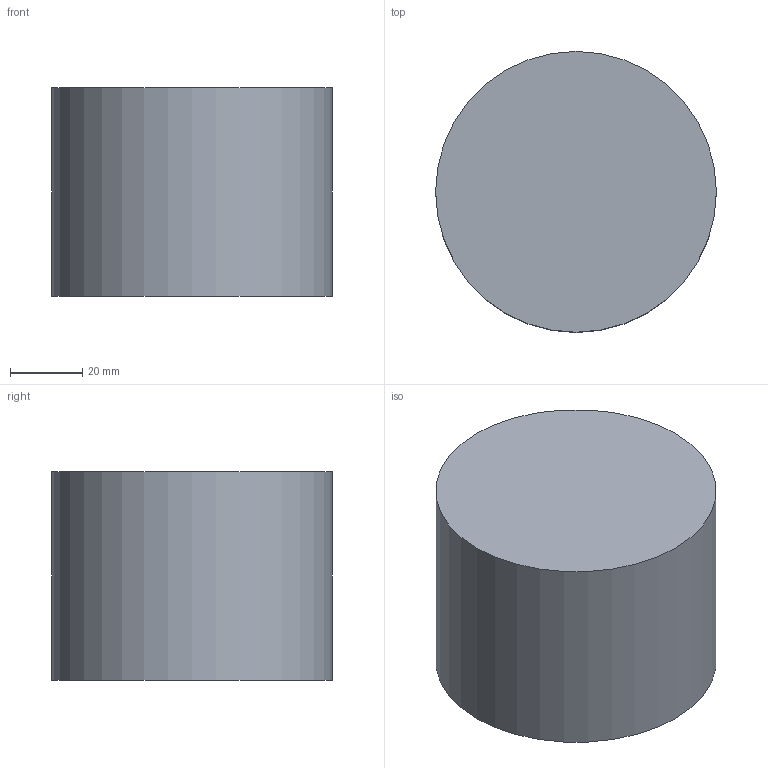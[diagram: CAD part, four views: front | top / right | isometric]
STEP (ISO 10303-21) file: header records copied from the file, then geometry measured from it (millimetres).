
FILE_DESCRIPTION(('Open CASCADE Model'),'2;1');
FILE_NAME('prop_tank','2026-08-12T02:42:45',('Author'),('Open CASCADE'), 'Open CASCADE STEP processor 7.9','build123d','Unknown');
FILE_SCHEMA(('AUTOMOTIVE_DESIGN { 1 0 10303 214 1 1 1 1 }'));
Length unit declared in the file: millimetre
Products named in the file (2): prop_tank
Assembly tree (1 placements, depth 2):
  prop_tank
    prop_tank
Bounding box: 78 x 78 x 58 mm (x, y, z)
Volume: 277145 mm3; surface area: 23769.3 mm2
Topology: 1 solids, 1 shells, 3 faces, 3 edges, 2 vertices
Faces by surface type: plane 2, cylinder 1
Full cylindrical faces by diameter (mm): 78 x1
Entity records: 126 total; most frequent: DIRECTION 21, CARTESIAN_POINT 16, AXIS2_PLACEMENT_3D 7, ORIENTED_EDGE 6, PCURVE 6, DEFINITIONAL_REPRESENTATION 6, LINE 5, VECTOR 5
